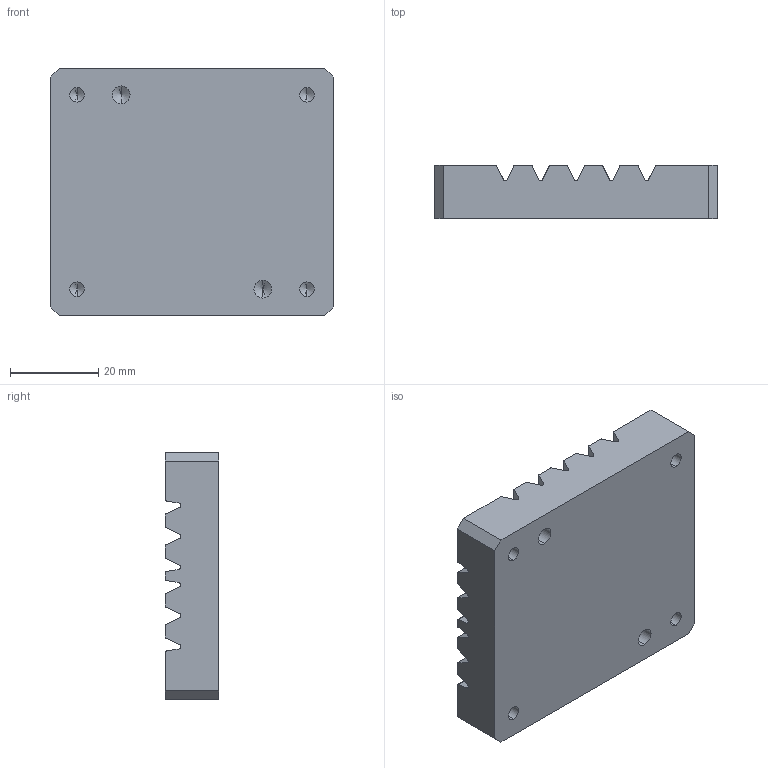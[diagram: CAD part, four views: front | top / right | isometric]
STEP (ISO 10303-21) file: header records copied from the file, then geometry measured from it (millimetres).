
FILE_DESCRIPTION (( 'STEP AP203' ), '1' );
FILE_NAME ('FB-011-10C菜啣B.STEP', '2025-03-24T03:07:30', ( 'Windows 蚚誧' ), ( 'Organization' ), 'SwSTEP 2.0', 'SolidWorks 2020', '' );
FILE_SCHEMA (( 'CONFIG_CONTROL_DESIGN' ));
Length unit declared in the file: millimetre
Products named in the file (1): FB-011-10C菜啣B
Bounding box: 64 x 12 x 56 mm (x, y, z)
Volume: 38027.1 mm3; surface area: 12730 mm2
Topology: 1 solids, 1 shells, 430 faces, 1082 edges, 648 vertices
Faces by surface type: cylinder 225, plane 193, cone 12
Entity records: 12413 total; most frequent: CARTESIAN_POINT 3109, ORIENTED_EDGE 2140, DIRECTION 1702, EDGE_CURVE 1070, VECTOR 660, LINE 660, VERTEX_POINT 648, AXIS2_PLACEMENT_3D 521
